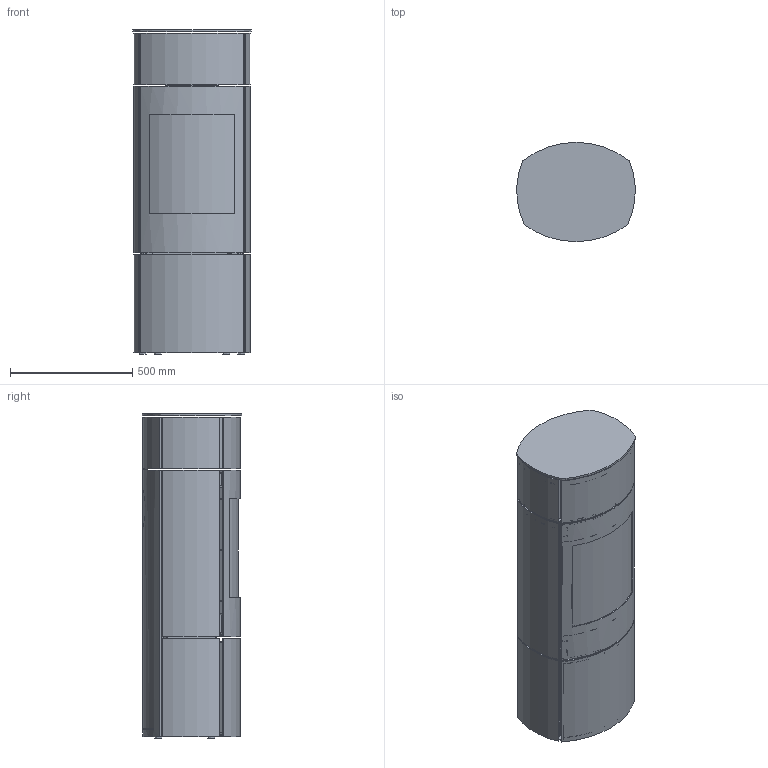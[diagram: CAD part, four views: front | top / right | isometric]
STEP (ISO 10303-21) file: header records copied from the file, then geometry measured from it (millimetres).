
FILE_DESCRIPTION(/* description */ (''),/* implementation_level */ '2;1');
FILE_NAME(/* name */ '14-0523 Caro 130 Gas Classic.stp',/* time_stamp */ '2023-11-07T13:42:45+01:00',/* author */ ('ksj'),/* organization */ (''),/* preprocessor_version */ 'ST-DEVELOPER v19.2',/* originating_system */ 'Autodesk Inventor 2023',/* authorisation */ '');
FILE_SCHEMA (('AUTOMOTIVE_DESIGN { 1 0 10303 214 3 1 1 }'));
Products named in the file (1): 14-0523 Caro 130 Gas Classic
Bounding box: 484.89 x 407 x 1329 mm (x, y, z)
Volume: 16034528.7 mm3; surface area: 8622485.5 mm2
Topology: 53 solids, 53 shells, 3117 faces, 8408 edges, 5373 vertices
Faces by surface type: plane 1944, cylinder 1134, bspline 29, torus 8, sphere 2
Full cylindrical faces by diameter (mm): 10 x4, 16.1 x2, 25 x4, 110 x2, 200 x1
Entity records: 102700 total; most frequent: CARTESIAN_POINT 19280, ORIENTED_EDGE 16812, DIRECTION 16718, EDGE_CURVE 8406, LINE 5912, VECTOR 5912, AXIS2_PLACEMENT_3D 5403, VERTEX_POINT 5369
